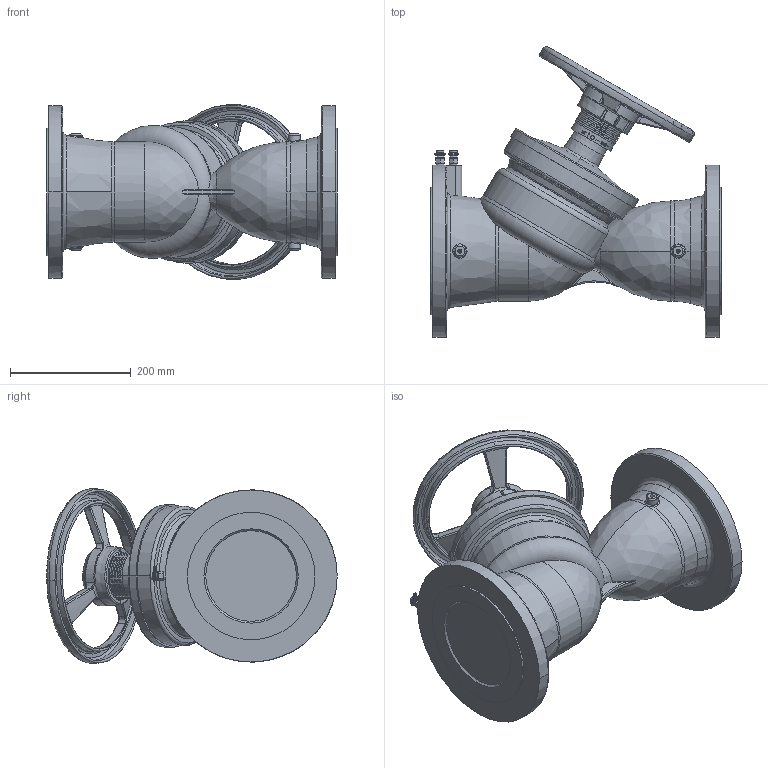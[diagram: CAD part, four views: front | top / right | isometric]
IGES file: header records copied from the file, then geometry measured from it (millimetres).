
Global section: file name: No Iges File Name specified; native system: AutoDesk Inventor R12.0; preprocessor: AutoDesk Inventor Iges Exporter R12.0; date: 20110118.122921; units: millimetre
Bounding box: 480 x 480.68 x 289.42 mm (x, y, z)
Surface area: 1126914.7 mm2
Topology: 1 solids, 2 shells, 1053 faces, 2777 edges, 1777 vertices
Faces by surface type: plane 374, bspline 309, revolution 138, cylinder 125, torus 62, cone 45
